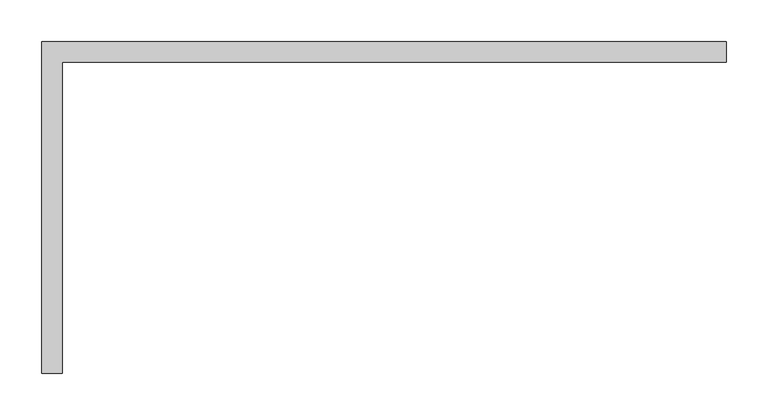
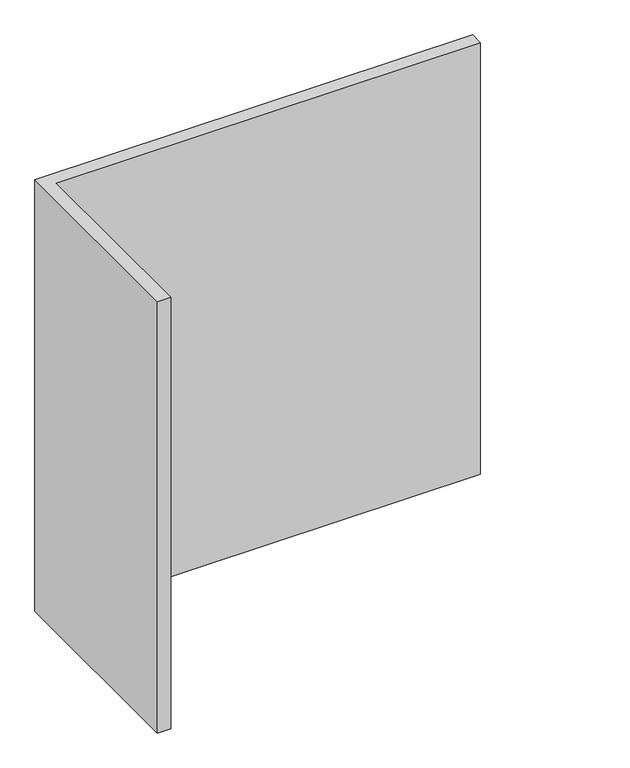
"""IFC4 building model written with IfcOpenShell, lengths in millimetres: proxy geometry, BIMHealth-600mm_Trolley_Bay-LOD2A-v1 : BIMHealth-600mm_Trolley_Bay-LOD2A-v1."""

import ifcopenshell
import ifcopenshell.guid

model = None  # the IFC model being written
_history = None  # IfcOwnerHistory: only IFC2X3 demands one
_inside = {}  # id of a spatial element -> (the spatial element, [elements in it])
_under = {}  # id of a project, library or spatial element -> (it, [spatial elements below it])
_declared = {}  # id of a project -> (the project, [libraries it declares])
_typed = {}  # id of a type object -> (the type object, [elements of that type])
_made_of = {}  # id of a material, layer set ... -> (it, [elements and type objects made of it])


def new_model(schema):
    """Start an empty IFC model of exactly this schema.

    Asked for "IFC4X3", IfcOpenShell would pick the latest addendum, in which some entities
    have other attributes; the version numbers below select the first issue.
    IFC2X3 requires an IfcOwnerHistory on every rooted entity: one is made here for all.
    """
    global model, _history
    if schema == "IFC4X3":
        model = ifcopenshell.file(schema_version=(4, 3, 0, 0))
    else:
        model = ifcopenshell.file(schema=schema)
    _inside.clear()
    _under.clear()
    _declared.clear()
    _typed.clear()
    _made_of.clear()
    _history = None
    if model.schema == "IFC2X3":
        org = make("IfcOrganization", Name="unknown")
        user = make(
            "IfcPersonAndOrganization",
            ThePerson=make("IfcPerson", FamilyName="unknown"),
            TheOrganization=org,
        )
        app = make(
            "IfcApplication",
            ApplicationDeveloper=org,
            Version="unknown",
            ApplicationFullName="unknown",
            ApplicationIdentifier="unknown",
        )
        _history = make(
            "IfcOwnerHistory",
            OwningUser=user,
            OwningApplication=app,
            ChangeAction="ADDED",
            CreationDate=0,
        )
    return model


def make(cls, **values):
    """One entity of the class cls with the attributes given. An attribute that is None is left unset."""
    return model.create_entity(
        cls, **{name: value for name, value in values.items() if value is not None}
    )


def rooted(cls, **values):
    """An entity with a GlobalId (a new one), such as an element, a storey or a relation."""
    return make(cls, GlobalId=ifcopenshell.guid.new(), OwnerHistory=_history, **values)


def si_unit(unit_type, name, prefix=None):
    """IfcSIUnit, for example si_unit("LENGTHUNIT", "METRE", prefix="MILLI")."""
    return make("IfcSIUnit", UnitType=unit_type, Prefix=prefix, Name=name)


def assignment(units):
    """IfcUnitAssignment: the units of a project."""
    return None if units is None else make("IfcUnitAssignment", Units=units)


def point(xyz):
    """IfcCartesianPoint."""
    return None if xyz is None else make("IfcCartesianPoint", Coordinates=xyz)


def direction(xyz):
    """IfcDirection."""
    return None if xyz is None else make("IfcDirection", DirectionRatios=xyz)


def frame(location, z_axis=None, x_axis=None):
    """IfcAxis2Placement3D, a coordinate frame: its origin and axes. An axis left out is left unset."""
    return make(
        "IfcAxis2Placement3D",
        Location=point(location),
        Axis=direction(z_axis),
        RefDirection=direction(x_axis),
    )


def origin():
    """The frame at (0, 0, 0) with its axes left unset."""
    return frame((0.0, 0.0, 0.0))


def origin_with_axes():
    """The frame at (0, 0, 0) with the z axis (0, 0, 1) and the x axis (1, 0, 0) written out."""
    return frame((0.0, 0.0, 0.0), z_axis=(0.0, 0.0, 1.0), x_axis=(1.0, 0.0, 0.0))


def place(relative_to, where):
    """IfcLocalPlacement: puts the frame where relative to a parent placement (None: the world)."""
    return make(
        "IfcLocalPlacement", PlacementRelTo=relative_to, RelativePlacement=where
    )


def context(
    kind, dimensions, precision=None, world=None, true_north=None, identifier=None
):
    """IfcGeometricRepresentationContext, for example the 3D "Model" context."""
    return make(
        "IfcGeometricRepresentationContext",
        ContextIdentifier=identifier,
        ContextType=kind,
        CoordinateSpaceDimension=dimensions,
        Precision=precision,
        WorldCoordinateSystem=world,
        TrueNorth=true_north,
    )


def project(units=None, contexts=None):
    """IfcProject with its units and contexts."""
    return rooted(
        "IfcProject",
        Name="project",
        RepresentationContexts=contexts,
        UnitsInContext=assignment(units),
    )


def spatial(cls, under=None, at=None, **own):
    """A site, building, storey or space (cls), placed at a placement, below another one or the project."""
    s = rooted(cls, ObjectPlacement=at, **own)
    if under is not None:
        _under.setdefault(under.id(), (under, []))[1].append(s)
    return s


def polyline(points):
    """IfcPolyline through the points."""
    return make("IfcPolyline", Points=[point(p) for p in points])


def outline(outer, holes=None, kind="AREA"):
    """IfcArbitraryClosedProfileDef: a profile drawn as a closed curve; with holes, ...WithVoids."""
    if holes is None:
        return make("IfcArbitraryClosedProfileDef", ProfileType=kind, OuterCurve=outer)
    return make(
        "IfcArbitraryProfileDefWithVoids",
        ProfileType=kind,
        OuterCurve=outer,
        InnerCurves=holes,
    )


def extrude(swept, where, along, depth):
    """IfcExtrudedAreaSolid: the profile swept, set in the frame where, extruded along a direction by depth."""
    return make(
        "IfcExtrudedAreaSolid",
        SweptArea=swept,
        Position=where,
        ExtrudedDirection=direction(along),
        Depth=depth,
    )


def shape(context_of_items, identifier, shape_type, items):
    """IfcShapeRepresentation: the items that make up one representation, for example the "Body"."""
    return make(
        "IfcShapeRepresentation",
        ContextOfItems=context_of_items,
        RepresentationIdentifier=identifier,
        RepresentationType=shape_type,
        Items=items,
    )


def source(mapping_origin, context_of_items, identifier, shape_type, items):
    """IfcRepresentationMap: a shape defined once, which mapped items show again and again."""
    return make(
        "IfcRepresentationMap",
        MappingOrigin=mapping_origin,
        MappedRepresentation=shape(context_of_items, identifier, shape_type, items),
    )


def transform(
    local_origin,
    x_axis=None,
    y_axis=None,
    z_axis=None,
    scale=None,
    scale2=None,
    scale3=None,
    uniform=True,
):
    """IfcCartesianTransformationOperator3D, or its non-uniform kind. x_axis, y_axis, z_axis: its Axis1, 2, 3."""
    if uniform:
        return make(
            "IfcCartesianTransformationOperator3D",
            Axis1=direction(x_axis),
            Axis2=direction(y_axis),
            LocalOrigin=point(local_origin),
            Scale=scale,
            Axis3=direction(z_axis),
        )
    return make(
        "IfcCartesianTransformationOperator3DnonUniform",
        Axis1=direction(x_axis),
        Axis2=direction(y_axis),
        LocalOrigin=point(local_origin),
        Scale=scale,
        Axis3=direction(z_axis),
        Scale2=scale2,
        Scale3=scale3,
    )


def mapped(mapping_source, mapping_target):
    """IfcMappedItem: shows the shape of a source again, moved by a transform."""
    return make(
        "IfcMappedItem", MappingSource=mapping_source, MappingTarget=mapping_target
    )


def made_of(thing, what):
    """Note that an element or type object is made of a material, layer set ...; save() writes the relation."""
    if what is not None:
        _made_of.setdefault(what.id(), (what, []))[1].append(thing)
    return thing


def element(
    cls,
    number,
    at=None,
    inside=None,
    cuts=None,
    type_object=None,
    material=None,
    context=None,
    identifier="Body",
    shape_type=None,
    held_by="IfcProductDefinitionShape",
    body=None,
    shapes=None,
    **own,
):
    """One element of the class cls, such as IfcWall. Its Tag is "e" and its number.

    at: its placement. inside: the storey or other place that contains it. cuts: it is an
    opening in that element (IfcRelVoidsElement). A single representation is given by context,
    identifier, shape_type and body (its items); several are given by shapes. held_by: the class
    of the entity that holds the representations. save() writes the other relations.
    """
    e = rooted(cls, Tag="e%d" % number, ObjectPlacement=at, **own)
    if body is not None:
        shapes = [shape(context, identifier, shape_type, body)]
    if shapes is not None:
        e.Representation = make(held_by, Representations=shapes)
    if inside is not None:
        _inside.setdefault(inside.id(), (inside, []))[1].append(e)
    if cuts is not None:
        rooted(
            "IfcRelVoidsElement", RelatingBuildingElement=cuts, RelatedOpeningElement=e
        )
    if type_object is not None:
        _typed.setdefault(type_object.id(), (type_object, []))[1].append(e)
    return made_of(e, material)


def aggregate(whole, parts):
    """IfcRelAggregates: a whole, such as a stair, and the parts it consists of."""
    return rooted("IfcRelAggregates", RelatingObject=whole, RelatedObjects=parts)


def save(model, path):
    """Write the relations noted so far, then the file.

    IfcRelAggregates (storeys below a building ...), IfcRelContainedInSpatialStructure (elements
    in a storey), IfcRelDefinesByType, IfcRelAssociatesMaterial and IfcRelDeclares: one each for
    every whole, place, type object, material and project.
    """
    for whole, parts in _under.values():
        aggregate(whole, parts)
    for where, things in _inside.values():
        rooted(
            "IfcRelContainedInSpatialStructure",
            RelatedElements=things,
            RelatingStructure=where,
        )
    for kind, things in _typed.values():
        rooted("IfcRelDefinesByType", RelatedObjects=things, RelatingType=kind)
    for what, things in _made_of.values():
        rooted("IfcRelAssociatesMaterial", RelatedObjects=things, RelatingMaterial=what)
    for by, libraries in _declared.values():
        rooted("IfcRelDeclares", RelatingContext=by, RelatedDefinitions=libraries)
    model.write(path)


def generic_models_581be9f4(model_context):
    return source(origin(), model_context, "Body", "SweptSolid", [
        extrude(outline(polyline([(-512.5, 0.0), (312.5, 0.0), (312.5, -25.0), (-487.5, -25.0), (-487.5, -400.0), (-512.5, -400.0), (-512.5, 0.0)])), origin_with_axes(), (0.0, 0.0, 1.0), 860.0),
    ])


if __name__ == "__main__":
    model = new_model("IFC4")
    model_context = context("Model", 3, world=origin())
    ifc_project = project(units=[si_unit("LENGTHUNIT", "METRE", prefix="MILLI")], contexts=[model_context])
    site = spatial("IfcSite", under=ifc_project)
    building = spatial("IfcBuilding", under=site)
    placement = place(None, origin())
    generic_models_shape = generic_models_581be9f4(model_context)
    element("IfcBuildingElementProxy", 1, Name="BIMHealth-600mm_Trolley_Bay-LOD2A-v1 : BIMHealth-600mm_Trolley_Bay-LOD2A-v1", ObjectType="BIMHealth-600mm_Trolley_Bay-LOD2A-v1 : BIMHealth-600mm_Trolley_Bay-LOD2A-v1", at=placement, inside=building, context=model_context, shape_type="MappedRepresentation", body=[
        mapped(generic_models_shape, transform((0.0, 0.0, 0.0), x_axis=(1.0, 0.0, 0.0), y_axis=(0.0, 1.0, 0.0), z_axis=(0.0, 0.0, 1.0))),
    ])
    save(model, "model.ifc")
